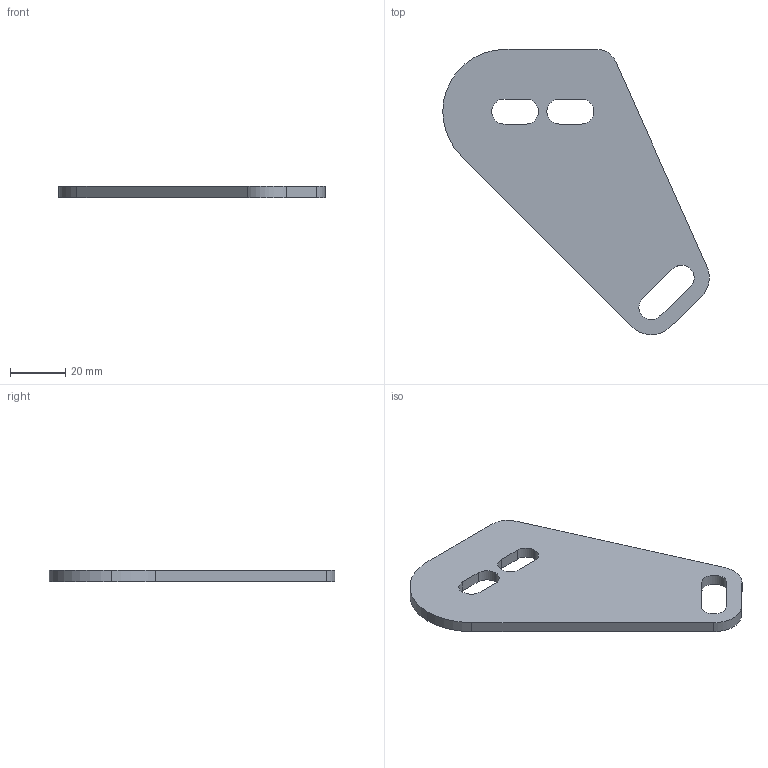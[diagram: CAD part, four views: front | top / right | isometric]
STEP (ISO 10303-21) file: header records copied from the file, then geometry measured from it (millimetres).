
FILE_DESCRIPTION (( 'STEP AP203' ), '1' );
FILE_NAME ('084.807.007.STEP', '2013-01-29T12:54:50', ( 'Alusic' ), ( 'Alusic' ), 'SwSTEP 2.0', 'SolidWorks 2011', '' );
FILE_SCHEMA (( 'CONFIG_CONTROL_DESIGN' ));
Length unit declared in the file: millimetre
Products named in the file (1): 084.807.007
Bounding box: 96.4 x 103.18 x 4 mm (x, y, z)
Volume: 20893.4 mm3; surface area: 12261.8 mm2
Topology: 1 solids, 1 shells, 26 faces, 72 edges, 48 vertices
Faces by surface type: cylinder 14, plane 12
Entity records: 933 total; most frequent: DIRECTION 154, CARTESIAN_POINT 147, ORIENTED_EDGE 144, EDGE_CURVE 72, AXIS2_PLACEMENT_3D 55, VERTEX_POINT 48, VECTOR 44, LINE 44
